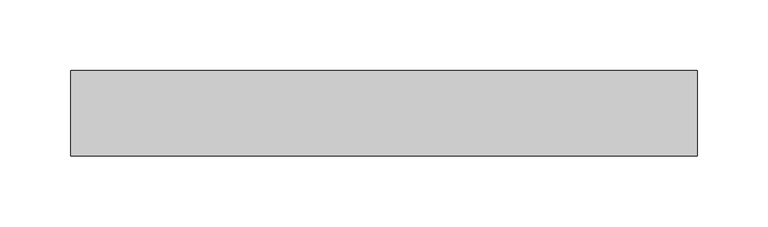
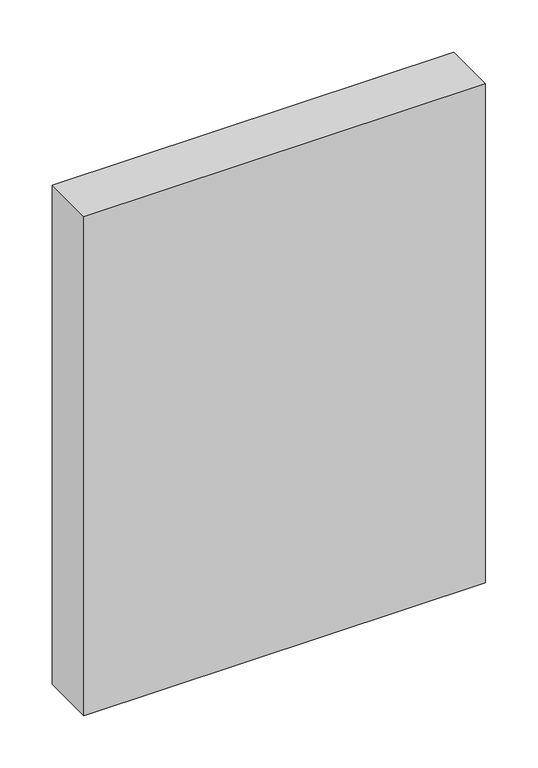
"""IFC4 building model written with IfcOpenShell, lengths in millimetres: plate geometry, Системная панель : Алюкобонд серый."""

from ifc_helpers import new_model, si_unit, origin, origin_with_axes, place, context, project, spatial, polyline, outline, extrude, source, transform, mapped, element, save


def plate_90efe4eb(model_context):
    return source(origin(), model_context, "Body", "SweptSolid", [
        extrude(outline(polyline([(220.6048915, -10.5), (-220.6048915, -10.5), (-220.6048915, 49.5), (220.6048915, 49.5), (220.6048915, -10.5)])), origin_with_axes(), (0.0, 0.0, 1.0), 580.0),
    ])


if __name__ == "__main__":
    model = new_model("IFC4")
    model_context = context("Model", 3, world=origin())
    ifc_project = project(units=[si_unit("LENGTHUNIT", "METRE", prefix="MILLI")], contexts=[model_context])
    site = spatial("IfcSite", under=ifc_project)
    building = spatial("IfcBuilding", under=site)
    placement = place(None, origin())
    plate_shape = plate_90efe4eb(model_context)
    element("IfcPlate", 1, ObjectType="Системная панель : Алюкобонд серый", at=placement, inside=building, context=model_context, shape_type="MappedRepresentation", body=[
        mapped(plate_shape, transform((0.0, 0.0, 0.0), x_axis=(1.0, 0.0, 0.0), y_axis=(0.0, 1.0, 0.0), z_axis=(0.0, 0.0, 1.0))),
    ])
    save(model, "model.ifc")
